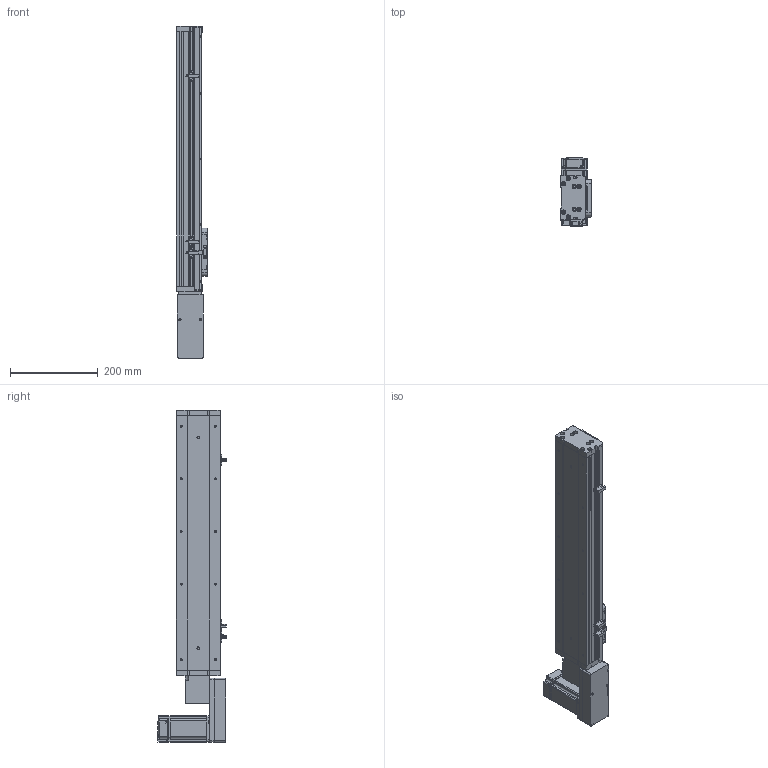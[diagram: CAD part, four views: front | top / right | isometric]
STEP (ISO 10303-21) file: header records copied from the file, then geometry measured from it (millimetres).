
FILE_DESCRIPTION (( 'STEP AP214' ), '1' );
FILE_NAME ('KSD100B-S400-MRB-CR.STEP', '2019-09-07T08:56:08', ( '微软用户' ), ( '微软中国' ), 'SwSTEP 2.0', 'SolidWorks 2014', '' );
FILE_SCHEMA (( 'AUTOMOTIVE_DESIGN' ));
Length unit declared in the file: millimetre
Products named in the file (15): 100宽马达安装板连板上下折丝杆同步带; U倰嫖萇EEㄜSX672; 感应片100宽全封闭; 100宽马达安装板同步带右; 100遵鎮湛假蚾啣蜊; 100宽端板同步带全封闭; 100宽滚珠螺姆安装板1防护罩; 100宽滚珠螺姆安装板1; 100遵裔啣揤啣; 100遵裔啣400俴最; 悵誘欶奻狟殏; 100宽侧板400行程同步带; 100宽底板全封闭400行程同步带; KSD100B-S400-MRB-CR; MHMD042G1CA_2_03
Assembly tree (18 placements, depth 2):
  KSD100B-S400-MRB-CR
    100宽底板全封闭400行程同步带
    100宽侧板400行程同步带  x2
    100遵裔啣400俴最
    100遵裔啣揤啣  x2
    100宽滚珠螺姆安装板1
    100宽滚珠螺姆安装板1防护罩
    100宽端板同步带全封闭
    100遵鎮湛假蚾啣蜊
    100宽马达安装板同步带右
    感应片100宽全封闭
    U倰嫖萇EEㄜSX672  x3
    100宽马达安装板连板上下折丝杆同步带
    悵誘欶奻狟殏
    MHMD042G1CA_2_03
Bounding box: 70 x 156.2 x 757 mm (x, y, z)
Volume: 1434393.1 mm3; surface area: 660281.6 mm2
Topology: 17 solids, 18 shells, 1673 faces, 4654 edges, 3007 vertices
Faces by surface type: cylinder 741, plane 733, cone 179, bspline 20
Entity records: 58982 total; most frequent: CARTESIAN_POINT 8908, DIRECTION 8056, ORIENTED_EDGE 7464, EDGE_CURVE 3804, AXIS2_PLACEMENT_3D 2889, VERTEX_POINT 2525, VECTOR 2278, LINE 2278
